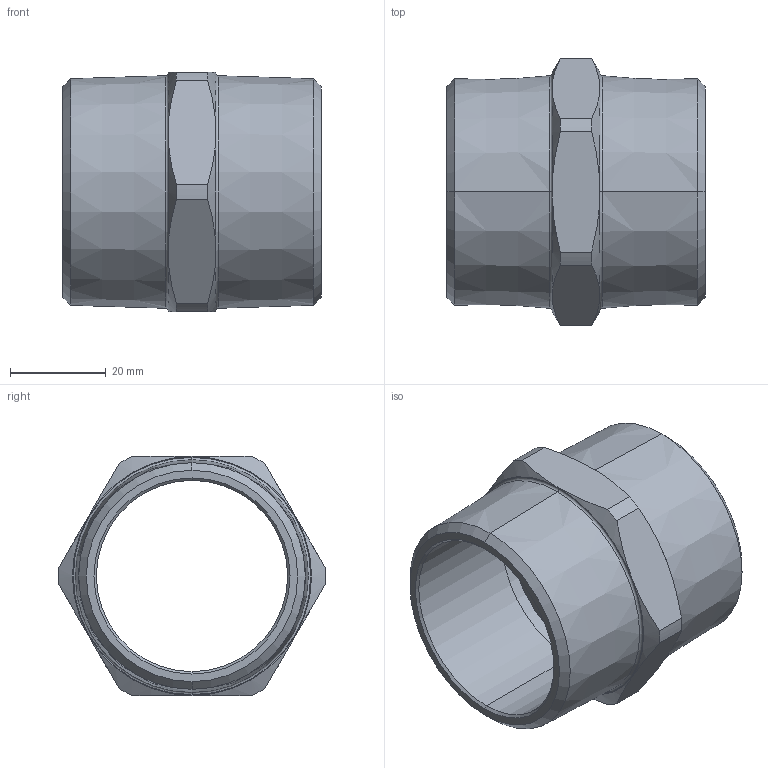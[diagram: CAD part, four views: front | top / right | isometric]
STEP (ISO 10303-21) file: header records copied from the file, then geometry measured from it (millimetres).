
FILE_DESCRIPTION (( 'STEP AP203' ), '1' );
FILE_NAME ('ﾍﾂﾍ5Nﾍ.STEP', '2019-06-05T12:28:47', ( '' ), ( '' ), 'SwSTEP 2.0', 'SolidWorks 2012', '' );
FILE_SCHEMA (( 'CONFIG_CONTROL_DESIGN' ));
Length unit declared in the file: millimetre
Products named in the file (1): ﾍﾂﾍ5Nﾍ
Bounding box: 54 x 55.99 x 50 mm (x, y, z)
Volume: 31580.2 mm3; surface area: 16706.1 mm2
Topology: 1 solids, 1 shells, 52 faces, 114 edges, 68 vertices
Faces by surface type: cone 24, cylinder 12, plane 12, torus 4
Entity records: 1619 total; most frequent: CARTESIAN_POINT 395, DIRECTION 256, ORIENTED_EDGE 228, EDGE_CURVE 114, AXIS2_PLACEMENT_3D 113, VERTEX_POINT 68, CIRCLE 60, EDGE_LOOP 58
